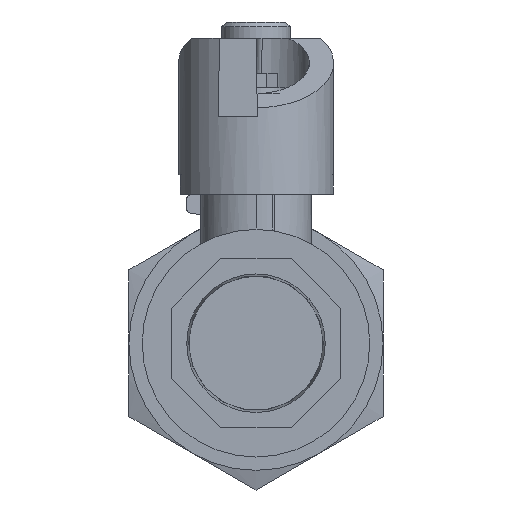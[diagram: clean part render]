
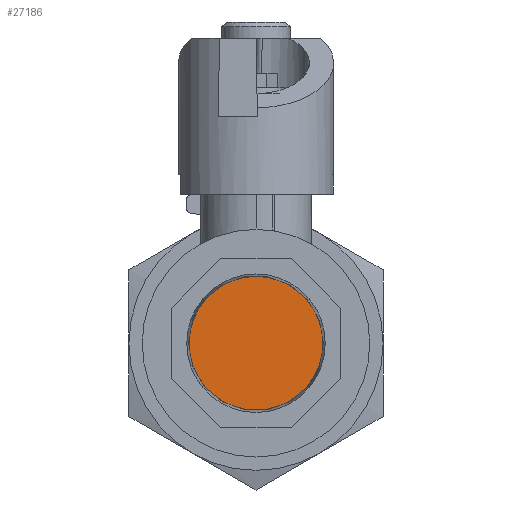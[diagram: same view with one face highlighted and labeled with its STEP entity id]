
A CAD part, left-side view. The second image highlights one B-rep face of the part: STEP entity #27186.
In plain terms, the highlighted planar face has unit normal (-1, 0, 0).
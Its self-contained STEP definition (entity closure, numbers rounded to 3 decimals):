
#2119 = CONICAL_SURFACE('',#2120,0.486,0.031);
#2120 = AXIS2_PLACEMENT_3D('',#2121,#2122,#2123);
#2121 = CARTESIAN_POINT('',(29.148,0.,
    15.386));
#2122 = DIRECTION('',(-1.,0.,0.));
#2123 = DIRECTION('',(0.,-1.,0.));
#27186 = ADVANCED_FACE('',(#27187),#27200,.F.);
#27187 = FACE_BOUND('',#27188,.T.);
#27188 = EDGE_LOOP('',(#27189));
#27189 = ORIENTED_EDGE('',*,*,#27190,.T.);
#27190 = EDGE_CURVE('',#27191,#27191,#27193,.T.);
#27191 = VERTEX_POINT('',#27192);
#27192 = CARTESIAN_POINT('',(29.425,-0.477,15.386));
#27193 = SURFACE_CURVE('',#27194,(#27199,#27215),.PCURVE_S1.);
#27194 = CIRCLE('',#27195,0.477);
#27195 = AXIS2_PLACEMENT_3D('',#27196,#27197,#27198);
#27196 = CARTESIAN_POINT('',(29.425,0.,
    15.386));
#27197 = DIRECTION('',(-1.,0.,0.));
#27198 = DIRECTION('',(0.,-1.,0.));
#27199 = PCURVE('',#27200,#27205);
#27200 = PLANE('',#27201);
#27201 = AXIS2_PLACEMENT_3D('',#27202,#27203,#27204);
#27202 = CARTESIAN_POINT('',(29.425,-0.239,15.386));
#27203 = DIRECTION('',(1.,0.,0.));
#27204 = DIRECTION('',(0.,1.,0.));
#27205 = DEFINITIONAL_REPRESENTATION('',(#27206),#27214);
#27206 = ( BOUNDED_CURVE() B_SPLINE_CURVE(2,(#27207,#27208,#27209,#27210
    ,#27211,#27212,#27213),.UNSPECIFIED.,.T.,.F.) 
B_SPLINE_CURVE_WITH_KNOTS((1,2,2,2,2,1),(-2.094,0.,
    2.094,4.189,6.283,8.378),
.UNSPECIFIED.) CURVE() GEOMETRIC_REPRESENTATION_ITEM() 
RATIONAL_B_SPLINE_CURVE((1.,0.5,1.,0.5,1.,0.5,1.)) REPRESENTATION_ITEM(
  '') );
#27207 = CARTESIAN_POINT('',(-0.239,0.));
#27208 = CARTESIAN_POINT('',(-0.239,0.827));
#27209 = CARTESIAN_POINT('',(0.477,0.413));
#27210 = CARTESIAN_POINT('',(1.194,0.));
#27211 = CARTESIAN_POINT('',(0.477,-0.413));
#27212 = CARTESIAN_POINT('',(-0.239,-0.827));
#27213 = CARTESIAN_POINT('',(-0.239,0.));
#27214 = ( GEOMETRIC_REPRESENTATION_CONTEXT(2) 
PARAMETRIC_REPRESENTATION_CONTEXT() REPRESENTATION_CONTEXT('2D SPACE',''
  ) );
#27215 = PCURVE('',#2119,#27216);
#27216 = DEFINITIONAL_REPRESENTATION('',(#27217),#27221);
#27217 = LINE('',#27218,#27219);
#27218 = CARTESIAN_POINT('',(0.,-0.277));
#27219 = VECTOR('',#27220,1.);
#27220 = DIRECTION('',(1.,0.));
#27221 = ( GEOMETRIC_REPRESENTATION_CONTEXT(2) 
PARAMETRIC_REPRESENTATION_CONTEXT() REPRESENTATION_CONTEXT('2D SPACE',''
  ) );
